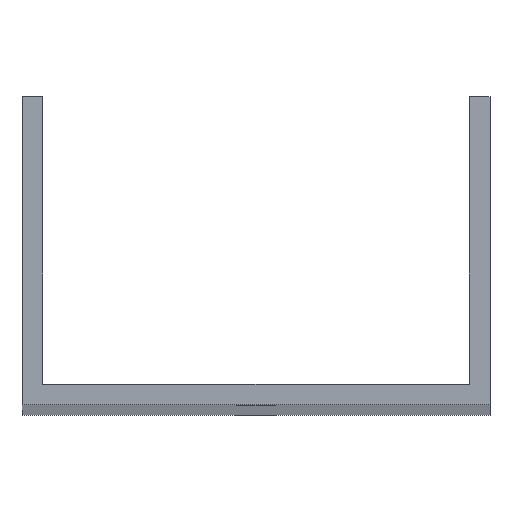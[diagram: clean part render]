
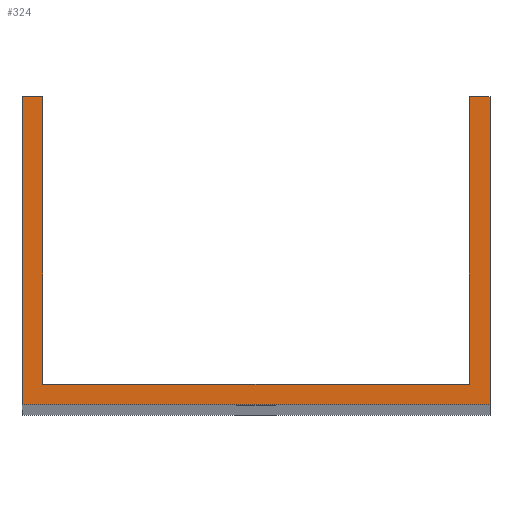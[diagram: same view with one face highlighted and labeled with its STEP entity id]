
A CAD part, top view. The second image highlights one B-rep face of the part: STEP entity #324.
In plain terms, the highlighted planar face has unit normal (0, 0, 1).
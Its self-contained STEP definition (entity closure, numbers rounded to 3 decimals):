
#1 = LINE ( 'NONE', #10, #902 ) ;
#4 = VECTOR ( 'NONE', #180, 1000. ) ;
#10 = CARTESIAN_POINT ( 'NONE',  ( -39.5, 52., 500. ) ) ;
#13 = DIRECTION ( 'NONE',  ( 1., 0., 0. ) ) ;
#18 = EDGE_CURVE ( 'NONE', #824, #728, #182, .T. ) ;
#23 = VECTOR ( 'NONE', #64, 1000. ) ;
#35 = DIRECTION ( 'NONE',  ( -1., 0., 0. ) ) ;
#36 = ORIENTED_EDGE ( 'NONE', *, *, #937, .T. ) ;
#64 = DIRECTION ( 'NONE',  ( 1., 0., 0. ) ) ;
#66 = ORIENTED_EDGE ( 'NONE', *, *, #18, .F. ) ;
#70 = EDGE_CURVE ( 'NONE', #414, #1134, #528, .T. ) ;
#86 = CARTESIAN_POINT ( 'NONE',  ( 36., 52., 500. ) ) ;
#180 = DIRECTION ( 'NONE',  ( 0., 1., 0. ) ) ;
#182 = LINE ( 'NONE', #451, #990 ) ;
#230 = CARTESIAN_POINT ( 'NONE',  ( -39.5, 0., 500. ) ) ;
#248 = CARTESIAN_POINT ( 'NONE',  ( 0., 0., 500. ) ) ;
#263 = CARTESIAN_POINT ( 'NONE',  ( 39.5, 52., 500. ) ) ;
#264 = LINE ( 'NONE', #954, #294 ) ;
#270 = CARTESIAN_POINT ( 'NONE',  ( -36., 52., 500. ) ) ;
#271 = ORIENTED_EDGE ( 'NONE', *, *, #70, .F. ) ;
#275 = DIRECTION ( 'NONE',  ( 0., 1., 0. ) ) ;
#294 = VECTOR ( 'NONE', #13, 1000. ) ;
#303 = LINE ( 'NONE', #922, #961 ) ;
#304 = ORIENTED_EDGE ( 'NONE', *, *, #840, .T. ) ;
#313 = DIRECTION ( 'NONE',  ( 0., 0., 1. ) ) ;
#317 = LINE ( 'NONE', #1020, #23 ) ;
#324 = ADVANCED_FACE ( 'NONE', ( #421 ), #1093, .T. ) ;
#343 = CARTESIAN_POINT ( 'NONE',  ( -36., 52., 500. ) ) ;
#356 = DIRECTION ( 'NONE',  ( 0., -1., 0. ) ) ;
#388 = EDGE_CURVE ( 'NONE', #1019, #1097, #1, .T. ) ;
#407 = VECTOR ( 'NONE', #438, 1000. ) ;
#413 = EDGE_CURVE ( 'NONE', #1134, #824, #264, .T. ) ;
#414 = VERTEX_POINT ( 'NONE', #343 ) ;
#421 = FACE_OUTER_BOUND ( 'NONE', #994, .T. ) ;
#438 = DIRECTION ( 'NONE',  ( 0., -1., 0. ) ) ;
#451 = CARTESIAN_POINT ( 'NONE',  ( 36., 52., 500. ) ) ;
#476 = CARTESIAN_POINT ( 'NONE',  ( 39.5, 52., 500. ) ) ;
#528 = LINE ( 'NONE', #270, #407 ) ;
#540 = CARTESIAN_POINT ( 'NONE',  ( 36., 3.5, 500. ) ) ;
#545 = VERTEX_POINT ( 'NONE', #476 ) ;
#561 = DIRECTION ( 'NONE',  ( -1., 0., 0. ) ) ;
#585 = VERTEX_POINT ( 'NONE', #1007 ) ;
#658 = EDGE_CURVE ( 'NONE', #1097, #585, #317, .T. ) ;
#660 = CARTESIAN_POINT ( 'NONE',  ( -39.5, 52., 500. ) ) ;
#662 = DIRECTION ( 'NONE',  ( 1., 0., 0. ) ) ;
#694 = CARTESIAN_POINT ( 'NONE',  ( -36., 3.5, 500. ) ) ;
#728 = VERTEX_POINT ( 'NONE', #86 ) ;
#775 = ORIENTED_EDGE ( 'NONE', *, *, #658, .T. ) ;
#799 = LINE ( 'NONE', #263, #4 ) ;
#824 = VERTEX_POINT ( 'NONE', #540 ) ;
#840 = EDGE_CURVE ( 'NONE', #585, #545, #799, .T. ) ;
#902 = VECTOR ( 'NONE', #356, 1000. ) ;
#922 = CARTESIAN_POINT ( 'NONE',  ( -39.5, 52., 500. ) ) ;
#937 = EDGE_CURVE ( 'NONE', #545, #728, #989, .T. ) ;
#945 = EDGE_CURVE ( 'NONE', #414, #1019, #303, .T. ) ;
#954 = CARTESIAN_POINT ( 'NONE',  ( -39.5, 3.5, 500. ) ) ;
#961 = VECTOR ( 'NONE', #561, 1000. ) ;
#968 = ORIENTED_EDGE ( 'NONE', *, *, #388, .T. ) ;
#989 = LINE ( 'NONE', #660, #992 ) ;
#990 = VECTOR ( 'NONE', #275, 1000. ) ;
#992 = VECTOR ( 'NONE', #35, 1000. ) ;
#994 = EDGE_LOOP ( 'NONE', ( #271, #1069, #968, #775, #304, #36, #66, #1063 ) ) ;
#1007 = CARTESIAN_POINT ( 'NONE',  ( 39.5, 0., 500. ) ) ;
#1019 = VERTEX_POINT ( 'NONE', #1091 ) ;
#1020 = CARTESIAN_POINT ( 'NONE',  ( -39.5, 0., 500. ) ) ;
#1029 = AXIS2_PLACEMENT_3D ( 'NONE', #248, #313, #662 ) ;
#1063 = ORIENTED_EDGE ( 'NONE', *, *, #413, .F. ) ;
#1069 = ORIENTED_EDGE ( 'NONE', *, *, #945, .T. ) ;
#1091 = CARTESIAN_POINT ( 'NONE',  ( -39.5, 52., 500. ) ) ;
#1093 = PLANE ( 'NONE',  #1029 ) ;
#1097 = VERTEX_POINT ( 'NONE', #230 ) ;
#1134 = VERTEX_POINT ( 'NONE', #694 ) ;
